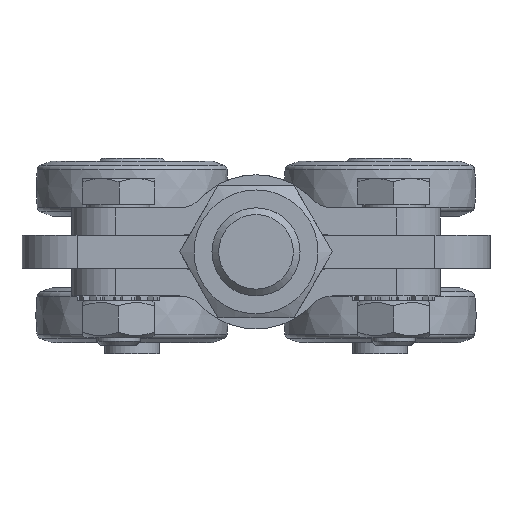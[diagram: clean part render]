
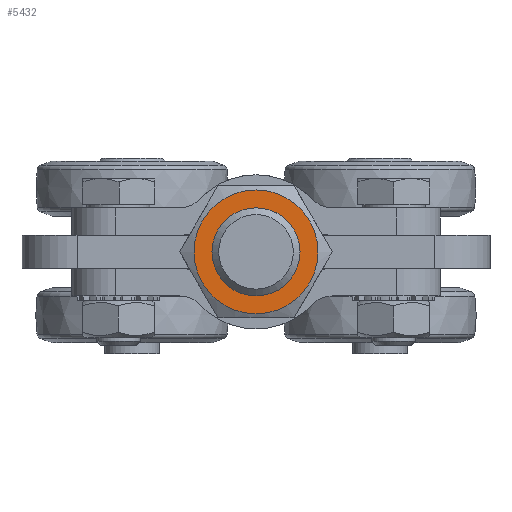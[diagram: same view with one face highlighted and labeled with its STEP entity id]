
A CAD part, front view. The second image highlights one B-rep face of the part: STEP entity #5432.
In plain terms, the highlighted planar face has unit normal (0, -1, 0) as drawn and (1, 0, 0) by its records, which use the part's own axes.
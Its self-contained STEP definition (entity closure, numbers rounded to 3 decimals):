
#345=FACE_BOUND('',#1069,.T.);
#468=PLANE('',#5894);
#694=FACE_OUTER_BOUND('',#1068,.T.);
#1068=EDGE_LOOP('',(#4331));
#1069=EDGE_LOOP('',(#4332));
#2196=CIRCLE('',#5893,8.);
#2197=CIRCLE('',#5895,11.25);
#2596=VERTEX_POINT('',#9820);
#2597=VERTEX_POINT('',#9823);
#3225=EDGE_CURVE('',#2596,#2596,#2196,.T.);
#3226=EDGE_CURVE('',#2597,#2597,#2197,.T.);
#4331=ORIENTED_EDGE('',*,*,#3226,.T.);
#4332=ORIENTED_EDGE('',*,*,#3225,.F.);
#5432=ADVANCED_FACE('',(#694,#345),#468,.T.);
#5893=AXIS2_PLACEMENT_3D('',#9821,#7005,#7006);
#5894=AXIS2_PLACEMENT_3D('',#9822,#7007,#7008);
#5895=AXIS2_PLACEMENT_3D('',#9824,#7009,#7010);
#7005=DIRECTION('center_axis',(1.,0.,0.));
#7006=DIRECTION('ref_axis',(0.,0.,1.));
#7007=DIRECTION('center_axis',(1.,0.,0.));
#7008=DIRECTION('ref_axis',(0.,0.,-1.));
#7009=DIRECTION('center_axis',(1.,0.,0.));
#7010=DIRECTION('ref_axis',(0.,1.,0.));
#9820=CARTESIAN_POINT('',(14.8,0.,-8.));
#9821=CARTESIAN_POINT('Origin',(14.8,0.,0.));
#9822=CARTESIAN_POINT('Origin',(14.8,0.,0.));
#9823=CARTESIAN_POINT('',(14.8,11.25,0.));
#9824=CARTESIAN_POINT('Origin',(14.8,0.,0.));
